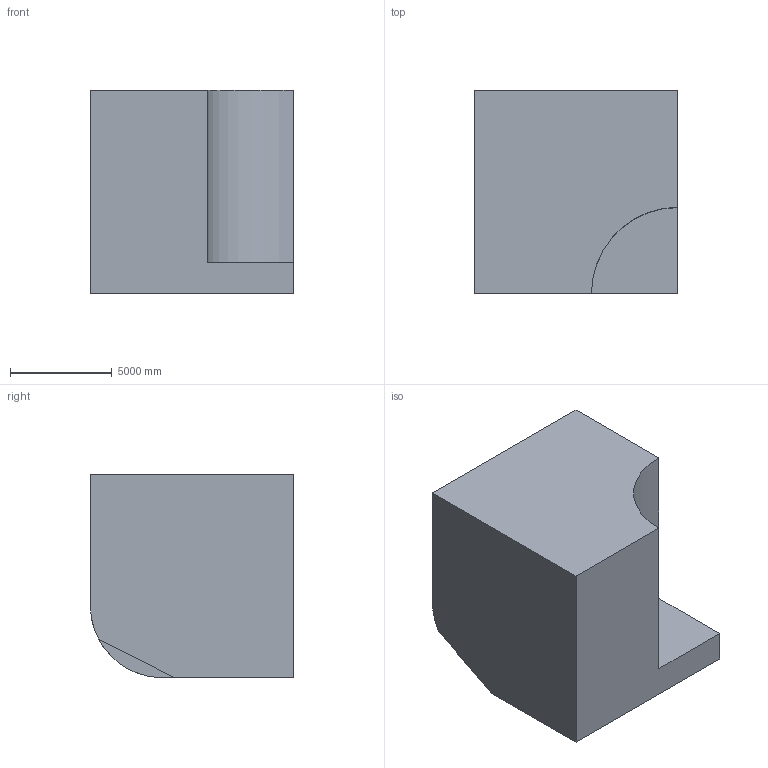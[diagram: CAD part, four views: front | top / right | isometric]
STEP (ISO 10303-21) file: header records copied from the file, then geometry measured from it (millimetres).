
FILE_DESCRIPTION (( 'STEP AP203' ), '1' );
FILE_NAME ('1218.STEP', '2022-08-18T13:14:27', ( 'user' ), ( '' ), 'SwSTEP 2.0', 'SolidWorks 2021', '' );
FILE_SCHEMA (( 'CONFIG_CONTROL_DESIGN' ));
Length unit declared in the file: centimetre
Products named in the file (1): 1218
Bounding box: 10000 x 10000 x 10000 mm (x, y, z)
Volume: 839962995369 mm3; surface area: 562102797.7 mm2
Topology: 1 solids, 1 shells, 11 faces, 27 edges, 18 vertices
Faces by surface type: plane 9, cylinder 2
Entity records: 403 total; most frequent: CARTESIAN_POINT 57, DIRECTION 56, ORIENTED_EDGE 54, EDGE_CURVE 27, VECTOR 22, LINE 22, VERTEX_POINT 18, AXIS2_PLACEMENT_3D 17
